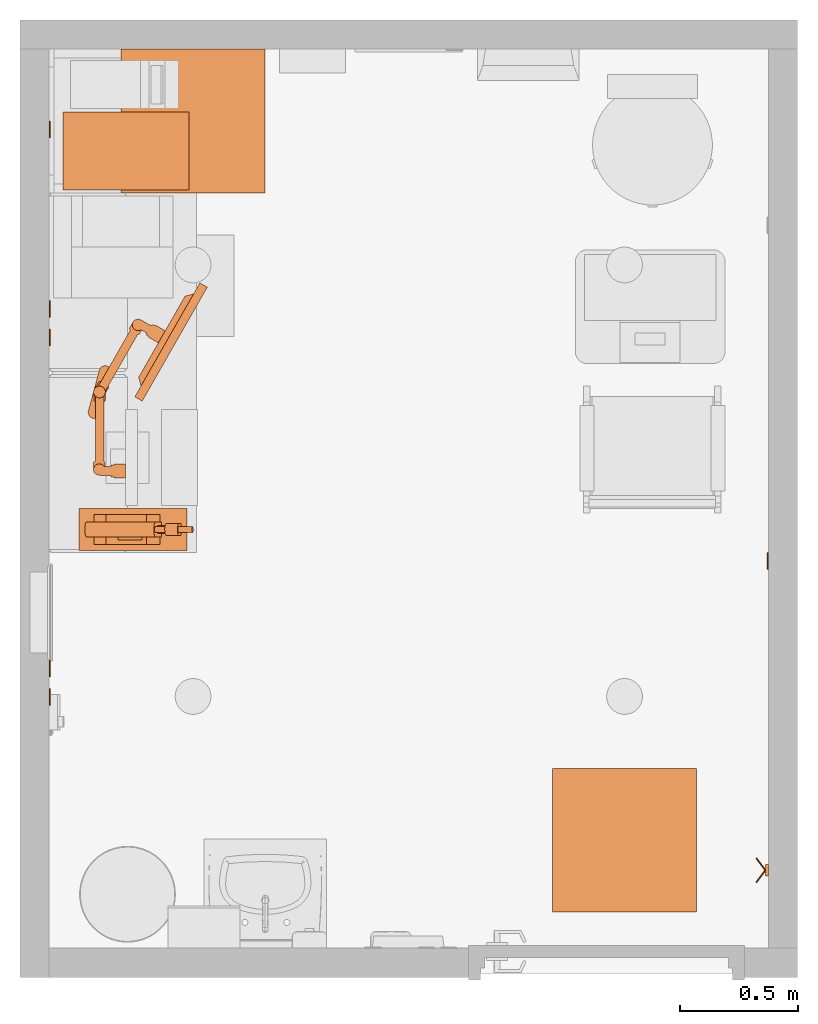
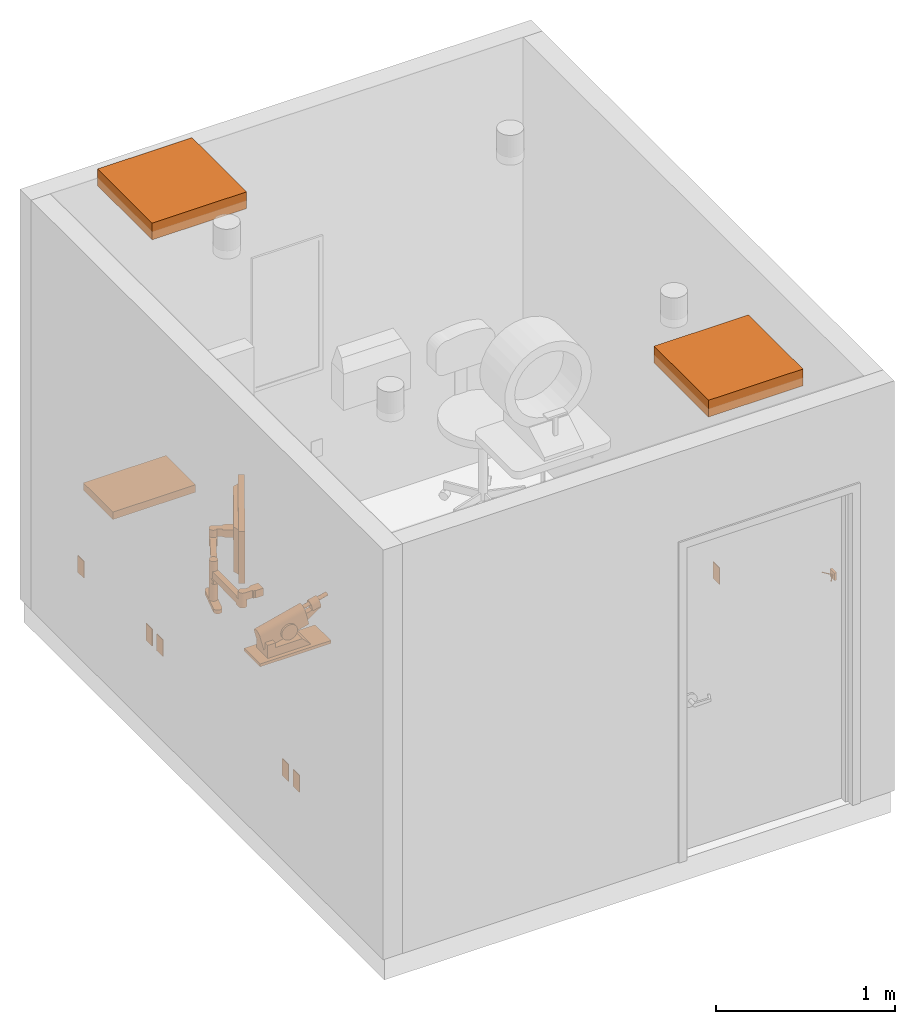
# One storey, part 6 of 11: 13 proxies.
"""IFC2X3 building model written with IfcOpenShell, lengths in feet."""

from ifc_helpers import new_model, entity, si_unit, converted_unit, derived_unit, direction, frame, frame_2d, origin, origin_2d_with_axis, place, context, subcontext, project, spatial, polyline, circle_curve, parameter, trimmed, segment, composite_curve, rectangle, circle, outline, extrude, source, transform, mapped, material, type_object, type_shapes, element, save


model = new_model("IFC2X3")

# Units and contexts
model_context = context("Model", 3, precision=0.0001, world=origin(), true_north=direction((6.12303176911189e-17, 1.0)))
body_context = subcontext(model_context, "Body", "Model", "MODEL_VIEW")
ifc_project = project(units=[converted_unit("LENGTHUNIT", "FOOT", entity("IfcRatioMeasure", 0.3048), si_unit("LENGTHUNIT", "METRE"), dimensions=[1, 0, 0, 0, 0, 0, 0]), converted_unit("AREAUNIT", "SQUARE FOOT", entity("IfcRatioMeasure", 0.09290304), si_unit("AREAUNIT", "SQUARE_METRE"), dimensions=[2, 0, 0, 0, 0, 0, 0]), converted_unit("VOLUMEUNIT", "CUBIC FOOT", entity("IfcRatioMeasure", 0.028316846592), si_unit("VOLUMEUNIT", "CUBIC_METRE"), dimensions=[3, 0, 0, 0, 0, 0, 0]), converted_unit("PLANEANGLEUNIT", "DEGREE", entity("IfcRatioMeasure", 0.0174532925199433), si_unit("PLANEANGLEUNIT", "RADIAN"), dimensions=[0, 0, 0, 0, 0, 0, 0]), si_unit("MASSUNIT", "GRAM", prefix="KILO"), derived_unit("MASSDENSITYUNIT", [(si_unit("MASSUNIT", "GRAM", prefix="KILO"), 1), (si_unit("LENGTHUNIT", "METRE"), -3)]), si_unit("TIMEUNIT", "SECOND"), si_unit("FREQUENCYUNIT", "HERTZ"), si_unit("THERMODYNAMICTEMPERATUREUNIT", "DEGREE_CELSIUS"), derived_unit("THERMALTRANSMITTANCEUNIT", [(si_unit("MASSUNIT", "GRAM", prefix="KILO"), 1), (si_unit("THERMODYNAMICTEMPERATUREUNIT", "KELVIN"), -1), (si_unit("TIMEUNIT", "SECOND"), -3)]), derived_unit("VOLUMETRICFLOWRATEUNIT", [(si_unit("LENGTHUNIT", "METRE"), 3), (si_unit("TIMEUNIT", "SECOND"), -1)]), si_unit("ELECTRICCURRENTUNIT", "AMPERE"), si_unit("ELECTRICVOLTAGEUNIT", "VOLT"), si_unit("POWERUNIT", "WATT"), si_unit("FORCEUNIT", "NEWTON"), si_unit("ILLUMINANCEUNIT", "LUX"), si_unit("LUMINOUSFLUXUNIT", "LUMEN"), si_unit("LUMINOUSINTENSITYUNIT", "CANDELA"), derived_unit("USERDEFINED", [(si_unit("MASSUNIT", "GRAM", prefix="KILO"), -1), (si_unit("LENGTHUNIT", "METRE"), -2), (si_unit("TIMEUNIT", "SECOND"), 3), (si_unit("LUMINOUSFLUXUNIT", "LUMEN"), 1)]), derived_unit("LINEARVELOCITYUNIT", [(si_unit("LENGTHUNIT", "METRE"), 1), (si_unit("TIMEUNIT", "SECOND"), -1)]), si_unit("PRESSUREUNIT", "PASCAL"), derived_unit("USERDEFINED", [(si_unit("LENGTHUNIT", "METRE"), -2), (si_unit("MASSUNIT", "GRAM", prefix="KILO"), 1), (si_unit("TIMEUNIT", "SECOND"), -2)])], contexts=[model_context])

# Site, building, storey, space
site_placement = place(None, origin())
site = spatial("IfcSite", under=ifc_project, at=site_placement, Name="Default", CompositionType="ELEMENT")
building_placement = place(site_placement, origin())
building = spatial("IfcBuilding", under=site, at=building_placement, Name="EYE CLINIC:  OPTHALMOLOGY AND OPTOMETRY SERVICES (Ch. 233)", CompositionType="ELEMENT")
storey_placement = place(building_placement, origin())
storey = spatial("IfcBuildingStorey", under=building, at=storey_placement, Name="DATUM", CompositionType="ELEMENT", Elevation=0.0)
space_placement = place(storey_placement, origin())
space = spatial("IfcSpace", under=storey, at=space_placement, Name="(OPVF2)", CompositionType="ELEMENT", InteriorOrExteriorSpace="INTERNAL")

# Proxies
building_element_proxy_type_1 = type_object("IfcBuildingElementProxyType", Name="24\" x 24\"", PredefinedType="NOTDEFINED")
shared_shape_1 = source(origin(), body_context, "Body", "SweptSolid", [
    extrude(rectangle(XDim=2.00000000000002, YDim=2.00000000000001, at=origin_2d_with_axis()), frame((0.0, 0.0, 8.0), z_axis=(0.0, 0.0, 1.0), x_axis=(0.0, 1.0, 0.0)), (0.0, 0.0, 1.0), 0.375),
])
type_shapes(building_element_proxy_type_1, [shared_shape_1])
proxy_1_placement = place(space_placement, frame((191.639769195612, 28.010750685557, 1.0)))
element("IfcBuildingElementProxy", 1, at=proxy_1_placement, inside=space, type_object=building_element_proxy_type_1, Name="Supply Diffuser:24\" x 24\"", ObjectType="24\" x 24\"", context=body_context, shape_type="MappedRepresentation", body=[
    mapped(shared_shape_1, transform((0.0, 0.0, 0.0), scale=1.0)),
])
building_element_proxy_type_2 = type_object("IfcBuildingElementProxyType", Name="24\" x 24\"", PredefinedType="NOTDEFINED")
shared_shape_2 = source(origin(), body_context, "Body", "SweptSolid", [
    extrude(rectangle(XDim=2.0, YDim=2.0, at=origin_2d_with_axis()), frame((0.0, 0.0, 8.0)), (0.0, 0.0, 1.0), 0.375),
])
type_shapes(building_element_proxy_type_2, [shared_shape_2])
proxy_2_placement = place(space_placement, frame((197.639769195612, 18.010750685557, 1.0)))
element("IfcBuildingElementProxy", 2, at=proxy_2_placement, inside=space, type_object=building_element_proxy_type_2, Name="Return Register:24\" x 24\"", ObjectType="24\" x 24\"", context=body_context, shape_type="MappedRepresentation", body=[
    mapped(shared_shape_2, transform((0.0, 0.0, 0.0), scale=1.0)),
])
building_element_proxy_type_3 = type_object("IfcBuildingElementProxyType", Name="A5145 - Hook, Garment, Double", PredefinedType="NOTDEFINED")
shared_shape_3 = source(origin(), body_context, "Body", "SweptSolid", [
    extrude(circle(Radius=0.0105952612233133, at=frame_2d((-1.64551454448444e-31, -4.16333634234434e-17), x_axis=(1.0, 0.0))), frame((-0.169086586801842, -0.168481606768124, 0.0833333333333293), z_axis=(0.799999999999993, 0.60000000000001, 0.0), x_axis=(0.60000000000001, -0.799999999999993, 0.0)), (0.0, 0.0, 1.0), 0.211358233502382),
    extrude(circle(Radius=0.0105952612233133, at=frame_2d((5.2041704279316e-19, 2.77555756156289e-17), x_axis=(1.0, 0.0))), frame((0.0, -0.0416666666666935, 0.083333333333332), z_axis=(0.799999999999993, -0.60000000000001, 0.0), x_axis=(-0.60000000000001, -0.799999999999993, 0.0)), (0.0, 0.0, 1.0), 0.211358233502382),
    extrude(rectangle(XDim=0.0416666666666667, YDim=0.166666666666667, at=origin_2d_with_axis()), frame((0.0, -0.0208333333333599, 0.0), z_axis=(0.0, 0.0, 1.0), x_axis=(0.0, 1.0, 0.0)), (0.0, 0.0, 1.0), 0.166666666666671),
])
type_shapes(building_element_proxy_type_3, [shared_shape_3])
proxy_3_placement = place(space_placement, frame((199.639769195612, 17.5940840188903, 4.0), z_axis=(0.0, 0.0, 1.0), x_axis=(0.0, -1.0, 0.0)))
element("IfcBuildingElementProxy", 3, at=proxy_3_placement, inside=space, type_object=building_element_proxy_type_3, Name="A5145 - Hook, Garment, Double:A5145 - Hook, Garment, Double", ObjectType="A5145 - Hook, Garment, Double", context=body_context, shape_type="MappedRepresentation", body=[
    mapped(shared_shape_3, transform((0.0, 0.0, 0.0), scale=1.0)),
])
building_element_proxy_type_4 = type_object("IfcBuildingElementProxyType", Name="A5225 - Dual  Flat Panel Monitor ARMS", PredefinedType="NOTDEFINED")
shared_shape_4 = source(origin(), body_context, "Body", "SweptSolid", [
    extrude(outline(composite_curve([segment(polyline([(-0.234804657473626, 0.69348870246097), (-0.00529516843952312, -0.178421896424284)]), True, "CONTINUOUS"), segment(polyline([(-0.00529516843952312, -0.178421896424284), (-0.00878224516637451, -0.179339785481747)]), True, "CONTINUOUS"), segment(trimmed(circle_curve(frame_2d((-0.00347901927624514, -0.199486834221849), x_axis=(1.0, 0.0)), 0.0208333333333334), [parameter(104.747209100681)], [parameter(194.747209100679)], True, "PARAMETER"), True, "CONTINUOUS"), segment(polyline([(-0.0236260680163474, -0.204790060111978), (0.000310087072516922, -0.295723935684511)]), True, "CONTINUOUS"), segment(trimmed(circle_curve(frame_2d((0.0775832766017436, -0.275383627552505), x_axis=(1.0, 0.0)), 0.0799054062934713), [parameter(194.747209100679)], [parameter(12.9847014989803)], True, "PARAMETER"), True, "CONTINUOUS"), segment(polyline([(0.155445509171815, -0.257429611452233), (0.129962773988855, -0.160620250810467)]), True, "CONTINUOUS"), segment(trimmed(circle_curve(frame_2d((0.113314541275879, -0.165002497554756), x_axis=(1.0, 0.0)), 0.0172153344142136), [parameter(14.7472091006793)], [parameter(104.032129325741)], True, "PARAMETER"), True, "CONTINUOUS"), segment(polyline([(0.10914040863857, -0.148300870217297), (-0.122350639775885, 0.731137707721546)]), True, "CONTINUOUS"), segment(trimmed(circle_curve(frame_2d((-0.196569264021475, 0.766052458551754), x_axis=(1.0, 0.0)), 0.0820209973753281), [parameter(242.214295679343)], [parameter(334.806246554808)], True, "PARAMETER"), False, "CONTINUOUS")], self_intersect=False)), frame((-0.766443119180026, -0.426874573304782, 0.588770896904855), z_axis=(0.0, 0.0, -1.0), x_axis=(0.0, 1.0, 0.0)), (0.0, 0.0, -1.0), 0.166666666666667),
    extrude(outline(composite_curve([segment(trimmed(circle_curve(frame_2d((-0.0257333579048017, 0.00677368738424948), x_axis=(1.0, 0.0)), 0.0799054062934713), [parameter(165.252790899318)], [parameter(343.490283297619)], True, "PARAMETER"), True, "CONTINUOUS"), segment(polyline([(0.0508776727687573, -0.0159336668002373), (0.05212887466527, -0.0111803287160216)]), True, "CONTINUOUS"), segment(trimmed(circle_curve(frame_2d((-0.0257333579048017, 0.00677368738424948), x_axis=(1.0, 0.0)), 0.0799054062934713), [parameter(347.01529850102)], [parameter(165.252790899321)], True, "PARAMETER"), True, "CONTINUOUS")], self_intersect=False)), frame((-1.03505305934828, -0.323557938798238, 0.755437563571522), z_axis=(0.0, 0.0, 1.0), x_axis=(0.0, 1.0, 0.0)), (0.0, 0.0, 1.0), 0.166666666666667),
    extrude(outline(composite_curve([segment(polyline([(-0.0732138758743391, -0.0665619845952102), (0.09292753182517, -0.0665619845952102)]), True, "CONTINUOUS"), segment(trimmed(circle_curve(frame_2d((0.0941564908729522, 0.0133339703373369), x_axis=(-0.967058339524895, -0.254554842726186)), 0.0799054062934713), [parameter(347.015298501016)], [parameter(74.3715370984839)], True, "PARAMETER"), False, "CONTINUOUS"), segment(polyline([(0.0142888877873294, 0.0108763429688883), (0.0142888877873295, 0.0157915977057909)]), True, "CONTINUOUS"), segment(trimmed(circle_curve(frame_2d((0.0941564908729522, 0.013333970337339), x_axis=(-0.967058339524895, -0.254554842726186)), 0.0799054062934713), [parameter(315.301217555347)], [parameter(343.490283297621)], True, "PARAMETER"), False, "CONTINUOUS"), segment(polyline([(0.0249226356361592, 0.0532281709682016), (-0.0732140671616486, 0.0532278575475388)]), True, "CONTINUOUS"), segment(trimmed(circle_curve(frame_2d((-0.0732138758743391, -0.00666706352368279), x_axis=(-0.967058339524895, -0.254554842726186)), 0.059894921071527), [parameter(255.252973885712)], [parameter(75.2527908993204)], True, "PARAMETER"), True, "CONTINUOUS")], self_intersect=False)), frame((-1.03075348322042, -0.254842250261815, 0.755437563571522), z_axis=(0.0, 0.0, 1.0), x_axis=(-0.254554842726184, -0.967058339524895, 0.0)), (0.0, 0.0, 1.0), 0.166666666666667),
    extrude(outline(composite_curve([segment(polyline([(-0.0382992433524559, -0.0723910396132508), (-0.0325648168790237, -0.0941765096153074)]), True, "CONTINUOUS"), segment(polyline([(-0.0325648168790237, -0.0941765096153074), (0.00369359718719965, -0.0846324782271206)]), True, "CONTINUOUS"), segment(polyline([(0.00369359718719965, -0.0846324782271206), (0.00753555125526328, -0.0992283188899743)]), True, "CONTINUOUS"), segment(polyline([(0.00753555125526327, -0.0992283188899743), (0.16736586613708, -0.0571573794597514)]), True, "CONTINUOUS"), segment(polyline([(0.16736586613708, -0.0571573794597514), (0.116889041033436, 0.131224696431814)]), True, "CONTINUOUS"), segment(polyline([(0.116889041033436, 0.131224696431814), (-0.042108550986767, 0.0893729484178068)]), True, "CONTINUOUS"), segment(polyline([(-0.042108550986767, 0.0893729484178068), (-0.0387316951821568, 0.0765440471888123)]), True, "CONTINUOUS"), segment(polyline([(-0.0387316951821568, 0.0765440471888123), (-0.0749901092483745, 0.0670000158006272)]), True, "CONTINUOUS"), segment(polyline([(-0.0749901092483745, 0.0670000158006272), (-0.0687896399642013, 0.0434440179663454)]), True, "CONTINUOUS"), segment(trimmed(circle_curve(frame_2d((-0.0528302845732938, -0.0142855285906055), x_axis=(1.0, 0.0)), 0.059894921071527), [parameter(284.040571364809)], [parameter(105.453480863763)], True, "PARAMETER"), False, "CONTINUOUS")], self_intersect=False)), frame((-1.00427844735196, -0.129512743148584, 0.755437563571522), z_axis=(0.0, 0.0, -1.0), x_axis=(0.0, 1.0, 0.0)), (0.0, 0.0, -1.0), 0.166666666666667),
    extrude(outline(composite_curve([segment(polyline([(0.0602572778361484, -0.055464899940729), (0.0827848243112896, -0.055464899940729)]), True, "CONTINUOUS"), segment(polyline([(0.0827848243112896, -0.055464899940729), (0.0827848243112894, -0.0179714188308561)]), True, "CONTINUOUS"), segment(polyline([(0.0827848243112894, -0.0179714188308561), (0.0978778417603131, -0.0179714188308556)]), True, "CONTINUOUS"), segment(polyline([(0.0978778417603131, -0.0179714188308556), (0.0978778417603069, 0.147303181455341)]), True, "CONTINUOUS"), segment(polyline([(0.0978778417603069, 0.147303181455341), (-0.0971477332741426, 0.146442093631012)]), True, "CONTINUOUS"), segment(polyline([(-0.0971477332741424, 0.146442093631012), (-0.0971477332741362, -0.0179714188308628)]), True, "CONTINUOUS"), segment(polyline([(-0.0971477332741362, -0.0179714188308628), (-0.0838818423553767, -0.0179714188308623)]), True, "CONTINUOUS"), segment(polyline([(-0.0838818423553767, -0.0179714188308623), (-0.0838818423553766, -0.0554648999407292)]), True, "CONTINUOUS"), segment(polyline([(-0.0838818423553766, -0.0554648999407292), (-0.0595234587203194, -0.0554648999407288)]), True, "CONTINUOUS"), segment(trimmed(circle_curve(frame_2d((0.000366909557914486, -0.0547264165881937), x_axis=(0.254551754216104, 0.967059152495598)), 0.059894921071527), [parameter(284.040571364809)], [parameter(105.453480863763)], True, "PARAMETER"), False, "CONTINUOUS")], self_intersect=False)), frame((1.0034971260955, -0.129512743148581, 0.755437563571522), z_axis=(0.0, 0.0, 1.0), x_axis=(0.967059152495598, 0.254551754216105, 0.0)), (0.0, 0.0, 1.0), 0.166666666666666),
    extrude(outline(composite_curve([segment(trimmed(circle_curve(frame_2d((0.0724992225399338, 0.0121895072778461), x_axis=(1.0, 0.0)), 0.059894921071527), [parameter(284.74720910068)], [parameter(104.747026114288)], True, "PARAMETER"), True, "CONTINUOUS"), segment(polyline([(0.0572528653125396, 0.0701114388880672), (-0.0376511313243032, 0.0451305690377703)]), True, "CONTINUOUS"), segment(trimmed(circle_curve(frame_2d((-0.0944490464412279, -0.0110732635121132), x_axis=(1.0, 0.0)), 0.0799054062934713), [parameter(16.509716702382)], [parameter(44.6987824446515)], True, "PARAMETER"), False, "CONTINUOUS"), segment(polyline([(-0.0178380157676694, 0.0116340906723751), (-0.016586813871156, 0.00688075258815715)]), True, "CONTINUOUS"), segment(trimmed(circle_curve(frame_2d((-0.0944490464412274, -0.0110732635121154), x_axis=(1.0, 0.0)), 0.0799054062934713), [parameter(285.628462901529)], [parameter(12.9847014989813)], True, "PARAMETER"), False, "CONTINUOUS"), segment(polyline([(-0.0729226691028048, -0.0880244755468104), (0.0877457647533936, -0.0457323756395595)]), True, "CONTINUOUS")], self_intersect=False)), frame((1.02997216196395, -0.254842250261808, 0.755437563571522), z_axis=(0.0, 0.0, 1.0), x_axis=(0.0, 1.0, 0.0)), (0.0, 0.0, 1.0), 0.166666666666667),
    extrude(outline(composite_curve([segment(trimmed(circle_curve(frame_2d((-0.0257333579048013, -0.00677368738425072), x_axis=(1.0, 0.0)), 0.0799054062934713), [parameter(194.74720910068)], [parameter(12.9847014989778)], True, "PARAMETER"), True, "CONTINUOUS"), segment(polyline([(0.0521288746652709, 0.0111803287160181), (0.050877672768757, 0.0159336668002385)]), True, "CONTINUOUS"), segment(trimmed(circle_curve(frame_2d((-0.0257333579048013, -0.00677368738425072), x_axis=(1.0, 0.0)), 0.0799054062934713), [parameter(16.509716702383)], [parameter(194.747209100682)], True, "PARAMETER"), True, "CONTINUOUS")], self_intersect=False)), frame((1.03427173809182, -0.323557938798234, 0.755437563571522), z_axis=(0.0, 0.0, 1.0), x_axis=(0.0, 1.0, 0.0)), (0.0, 0.0, 1.0), 0.166666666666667),
    extrude(circle(Radius=0.0820209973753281, at=frame_2d((-1.85274460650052e-31, -1.04300248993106e-16), x_axis=(1.0, 0.0))), frame((-0.000390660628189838, -0.624030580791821, 0.588770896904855), z_axis=(0.0, 0.0, 1.0), x_axis=(0.0, 1.0, 0.0)), (0.0, 0.0, 1.0), 0.385601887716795),
    extrude(outline(composite_curve([segment(trimmed(circle_curve(frame_2d((-0.79085507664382, -0.00490841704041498), x_axis=(0.254554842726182, -0.967058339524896)), 0.0820209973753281), [parameter(25.1937534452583)], [parameter(117.785704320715)], True, "PARAMETER"), False, "CONTINUOUS"), segment(polyline([(-0.738197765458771, -0.067794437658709), (0.17119781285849, -0.0677944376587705)]), True, "CONTINUOUS"), segment(trimmed(circle_curve(frame_2d((0.188411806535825, -0.0675795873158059), x_axis=(0.254554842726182, -0.967058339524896)), 0.0172153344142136), [parameter(255.967870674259)], [parameter(345.252790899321)], True, "PARAMETER"), True, "CONTINUOUS"), segment(polyline([(0.188411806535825, -0.0847949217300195), (0.288518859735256, -0.084794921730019)]), True, "CONTINUOUS"), segment(trimmed(circle_curve(frame_2d((0.286061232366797, -0.00492731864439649), x_axis=(0.254554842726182, -0.967058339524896)), 0.0799054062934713), [parameter(347.015298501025)], [parameter(165.252790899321)], True, "PARAMETER"), True, "CONTINUOUS"), segment(polyline([(0.286061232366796, 0.0749780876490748), (0.192029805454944, 0.074978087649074)]), True, "CONTINUOUS"), segment(trimmed(circle_curve(frame_2d((0.192029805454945, 0.0541447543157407), x_axis=(0.254554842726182, -0.967058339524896)), 0.0208333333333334), [parameter(165.252790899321)], [parameter(255.252790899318)], True, "PARAMETER"), True, "CONTINUOUS"), segment(polyline([(0.171196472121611, 0.0541447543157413), (0.171196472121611, 0.0505388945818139)]), True, "CONTINUOUS"), segment(polyline([(0.171196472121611, 0.0505388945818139), (-0.730414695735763, 0.050538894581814)]), True, "CONTINUOUS")], self_intersect=False)), frame((0.765661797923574, -0.426874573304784, 0.588770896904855), z_axis=(0.0, 0.0, -1.0), x_axis=(0.967058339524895, 0.254554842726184, 0.0)), (0.0, 0.0, -1.0), 0.166666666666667),
    extrude(outline(composite_curve([segment(polyline([(-0.027560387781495, -0.104702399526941), (0.104720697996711, -0.104702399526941)]), True, "CONTINUOUS"), segment(trimmed(circle_curve(frame_2d((0.104720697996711, -0.0838690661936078), x_axis=(0.254554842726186, 0.967058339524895)), 0.0208333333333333), [parameter(194.74720910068)], [parameter(284.74720910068)], True, "PARAMETER"), True, "CONTINUOUS"), segment(polyline([(0.125554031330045, -0.083869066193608), (0.125554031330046, 0.0378552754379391)]), True, "CONTINUOUS"), segment(trimmed(circle_curve(frame_2d((0.108338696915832, 0.0378552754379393), x_axis=(0.254554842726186, 0.967058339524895)), 0.0172153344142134), [parameter(284.747209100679)], [parameter(14.7472091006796)], True, "PARAMETER"), True, "CONTINUOUS"), segment(polyline([(0.108338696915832, 0.0550706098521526), (0.0144960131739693, 0.055070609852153)]), True, "CONTINUOUS"), segment(polyline([(0.0144960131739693, 0.055070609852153), (-0.067185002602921, 0.101273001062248)]), True, "CONTINUOUS"), segment(trimmed(circle_curve(frame_2d((-0.0756607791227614, 0.0862887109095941), x_axis=(0.254554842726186, 0.967058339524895)), 0.0172153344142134), [parameter(345.25279089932)], [parameter(75.2527908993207)], True, "PARAMETER"), True, "CONTINUOUS"), segment(polyline([(-0.0906450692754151, 0.0947644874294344), (-0.150574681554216, -0.0111848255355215)]), True, "CONTINUOUS"), segment(trimmed(circle_curve(frame_2d((-0.132441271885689, -0.0214418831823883), x_axis=(0.254554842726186, 0.967058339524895)), 0.0208333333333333), [parameter(75.2527908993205)], [parameter(165.252790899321)], True, "PARAMETER"), True, "CONTINUOUS"), segment(polyline([(-0.142698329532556, -0.0395752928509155), (-0.0275603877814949, -0.104702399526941)]), True, "CONTINUOUS")], self_intersect=False)), frame((-0.000390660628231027, -0.597782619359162, 0.505437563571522), z_axis=(0.0, 0.0, 1.0), x_axis=(0.967058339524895, 0.254554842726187, 0.0)), (0.0, 0.0, 1.0), 0.083333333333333),
    extrude(circle(Radius=0.0820209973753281, at=frame_2d((-1.85274460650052e-31, -1.04300248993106e-16), x_axis=(1.0, 0.0))), frame((-0.000390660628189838, -0.623443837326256, 0.0887708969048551), z_axis=(0.0, 0.0, 1.0), x_axis=(0.0, 1.0, 0.0)), (0.0, 0.0, 1.0), 0.416666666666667),
    extrude(outline(composite_curve([segment(polyline([(-0.295275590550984, -0.0820209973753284), (0.295275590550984, -0.0820209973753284)]), True, "CONTINUOUS"), segment(trimmed(circle_curve(frame_2d((0.295275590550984, 0.0), x_axis=(0.0, 1.0)), 0.0820209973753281), [parameter(180.0)], [parameter(0.0)], True, "PARAMETER"), True, "CONTINUOUS"), segment(polyline([(0.295275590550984, 0.0820209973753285), (-0.295275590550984, 0.0820209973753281)]), True, "CONTINUOUS"), segment(trimmed(circle_curve(frame_2d((-0.295275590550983, 0.0), x_axis=(0.0, 1.0)), 0.0820209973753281), [parameter(3.05333249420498e-13)], [parameter(180.0)], True, "PARAMETER"), True, "CONTINUOUS")], self_intersect=False)), frame((-0.000390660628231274, -0.623443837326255, 0.00543756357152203)), (0.0, 0.0, 1.0), 0.083333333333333),
])
type_shapes(building_element_proxy_type_4, [shared_shape_4])
proxy_4_placement = place(space_placement, frame((190.941673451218, 24.0816330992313, 2.66666666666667), z_axis=(0.0, 0.0, 1.0), x_axis=(-0.258819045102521, -0.965925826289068, 0.0)))
element("IfcBuildingElementProxy", 4, at=proxy_4_placement, inside=space, type_object=building_element_proxy_type_4, Name="A5225 - Dual Monitor Arms:A5225 - Dual  Flat Panel Monitor ARMS", ObjectType="A5225 - Dual  Flat Panel Monitor ARMS", context=body_context, shape_type="MappedRepresentation", body=[
    mapped(shared_shape_4, transform((0.0, 0.0, 0.0), scale=1.0)),
])
building_element_proxy_type_5 = type_object("IfcBuildingElementProxyType", Name="M1800 - Computer with Double Flat Panel Monitors", PredefinedType="NOTDEFINED")
shared_shape_5 = source(origin(), body_context, "Body", "SweptSolid", [
    extrude(outline(polyline([(0.427116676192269, -0.490290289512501), (0.553463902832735, -0.490290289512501), (-0.490290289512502, 0.553463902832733), (-0.490290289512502, 0.427116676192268), (0.427116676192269, -0.490290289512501)])), frame((0.0, -0.0446704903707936, 0.255437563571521), z_axis=(0.0, 0.0, 1.0), x_axis=(0.707106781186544, 0.707106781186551, 0.0)), (0.0, 0.0, 1.0), 0.999999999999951),
    extrude(rectangle(XDim=0.118992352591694, YDim=1.825, at=origin_2d_with_axis()), frame((-0.000550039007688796, 0.0594961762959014, 0.172104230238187), z_axis=(0.0, 0.0, 1.0), x_axis=(0.0, 1.0, 0.0)), (0.0, 0.0, 1.0), 1.16666666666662),
])
type_shapes(building_element_proxy_type_5, [shared_shape_5])
proxy_5_placement = place(space_placement, frame((191.282141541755, 24.9681128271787, 2.79166666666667), z_axis=(0.0, 0.0, 1.0), x_axis=(-0.496171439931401, -0.868224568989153, 0.0)))
element("IfcBuildingElementProxy", 5, at=proxy_5_placement, inside=space, type_object=building_element_proxy_type_5, Name="M1800 - Monitor, Computer:M1800 - Computer with Double Flat Panel Monitors", ObjectType="M1800 - Computer with Double Flat Panel Monitors", context=body_context, shape_type="MappedRepresentation", body=[
    mapped(shared_shape_5, transform((0.0, 0.0, 0.0), scale=1.0)),
])
ifc_material = material(Name="EquipSpace")
building_element_proxy_type_6 = type_object("IfcBuildingElementProxyType", Name="M5700 - Frame Set, Lens, Trial", PredefinedType="NOTDEFINED", material=ifc_material)
shared_shape_6 = source(origin(), body_context, "Body", "SweptSolid", [
    extrude(rectangle(XDim=1.58333333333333, YDim=0.958333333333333, at=origin_2d_with_axis()), frame((-0.00511830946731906, -0.0109342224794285, 0.0), z_axis=(0.0, 0.0, 1.0), x_axis=(-1.0, 0.0, 0.0)), (0.0, 0.0, 1.0), 0.125),
    extrude(rectangle(XDim=1.08333333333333, YDim=1.75, at=frame_2d((0.0, 0.175), x_axis=(1.0, 0.0))), frame((-0.175, 0.0, 0.0), z_axis=(0.0, 0.0, 1.0), x_axis=(0.0, -1.0, 0.0)), (0.0, 0.0, 1.0), 0.166666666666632),
])
type_shapes(building_element_proxy_type_6, [shared_shape_6])
proxy_6_placement = place(space_placement, frame((190.707477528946, 27.5940840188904, 3.0)))
element("IfcBuildingElementProxy", 6, at=proxy_6_placement, inside=space, type_object=building_element_proxy_type_6, material=ifc_material, Name="M5700 - Frame Set, Lens, Trial:M5700 - Frame Set, Lens, Trial", ObjectType="M5700 - Frame Set, Lens, Trial", context=body_context, shape_type="MappedRepresentation", body=[
    mapped(shared_shape_6, transform((0.0, 0.0, 0.0), scale=1.0)),
])
building_element_proxy_type_7 = type_object("IfcBuildingElementProxyType", Name="M5520 - Lensometer", PredefinedType="NOTDEFINED")
shared_shape_7 = source(origin(), body_context, "Body", "SweptSolid", [
    extrude(circle(Radius=0.166666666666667, at=frame_2d((0.0, -7.21644966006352e-16), x_axis=(1.0, 0.0))), frame((0.104166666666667, -0.0416666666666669, 0.437499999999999), z_axis=(1.0, 0.0, 0.0), x_axis=(0.0, -1.0, 0.0)), (0.0, 0.0, 1.0), 0.0439213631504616),
    extrude(circle(Radius=0.0416666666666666, at=frame_2d((1.73472347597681e-18, -1.077244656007e-16), x_axis=(1.0, 0.0))), frame((0.00188577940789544, 0.202289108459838, 0.758268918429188), z_axis=(0.0, 0.970295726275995, 0.241921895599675), x_axis=(1.0, 0.0, 0.0)), (0.0, 0.0, 1.0), 0.643678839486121),
    extrude(outline(composite_curve([segment(polyline([(-0.0833333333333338, -0.0572916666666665), (0.0833333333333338, -0.0572916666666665)]), True, "CONTINUOUS"), segment(polyline([(0.0833333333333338, -0.0572916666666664), (0.083333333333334, 0.0572916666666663)]), True, "CONTINUOUS"), segment(trimmed(circle_curve(frame_2d((0.0, 0.0572916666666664), x_axis=(-1.0, 0.0)), 0.0833333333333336), [parameter(180.0)], [parameter(1.52666624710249e-13)], True, "PARAMETER"), True, "CONTINUOUS"), segment(polyline([(-0.0833333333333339, 0.0572916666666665), (-0.0833333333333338, -0.0572916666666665)]), True, "CONTINUOUS")], self_intersect=False)), frame((0.0, 0.473607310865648, 0.749137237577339), z_axis=(0.0, 0.970295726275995, 0.241921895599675), x_axis=(-1.0, 0.0, 0.0)), (0.0, 0.0, 1.0), 0.182011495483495),
    extrude(outline(polyline([(-0.0508526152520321, -0.166666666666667), (0.11089117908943, -0.166666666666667), (-0.00918594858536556, 0.166666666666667), (-0.0508526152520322, 0.166666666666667), (-0.0508526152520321, -0.166666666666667)])), frame((-0.0576992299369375, 0.51465880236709, 0.647917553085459), z_axis=(1.0, 0.0, 0.0), x_axis=(0.0, 0.241921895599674, -0.970295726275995)), (0.0, 0.0, 1.0), 0.112888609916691),
    extrude(outline(composite_curve([segment(polyline([(-0.104166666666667, -0.166666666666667), (0.104166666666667, -0.166666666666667)]), True, "CONTINUOUS"), segment(polyline([(0.104166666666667, -0.166666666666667), (0.104166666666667, 0.166666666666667)]), True, "CONTINUOUS"), segment(trimmed(circle_curve(frame_2d((0.0, 0.166666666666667), x_axis=(-1.0, 0.0)), 0.104166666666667), [parameter(180.0)], [parameter(2.03555499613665e-13)], True, "PARAMETER"), True, "CONTINUOUS"), segment(polyline([(-0.104166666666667, 0.166666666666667), (-0.104166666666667, -0.166666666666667)]), True, "CONTINUOUS")], self_intersect=False)), frame((0.0, -0.607176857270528, 0.366944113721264), z_axis=(0.0, 0.970295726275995, 0.241921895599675), x_axis=(-1.0, 0.0, 0.0)), (0.0, 0.0, 1.0), 0.989819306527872),
    extrude(outline(polyline([(-0.131944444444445, -0.329861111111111), (0.159722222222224, -0.329861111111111), (0.159722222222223, 0.586805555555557), (-0.0277777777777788, 0.399305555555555), (-0.0277777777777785, -0.163194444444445), (-0.131944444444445, -0.163194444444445), (-0.131944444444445, -0.329861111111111)])), frame((-0.208333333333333, -0.211805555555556, 0.22528558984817), z_axis=(1.0, 0.0, 0.0), x_axis=(0.0, 0.0, -1.0)), (0.0, 0.0, 1.0), 0.416666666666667),
    extrude(rectangle(XDim=1.5, YDim=0.583333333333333, at=origin_2d_with_axis()), frame((0.0, 0.0, 0.0), z_axis=(0.0, 0.0, 1.0), x_axis=(0.0, 1.0, 0.0)), (0.0, 0.0, 1.0), 0.0655633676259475),
])
type_shapes(building_element_proxy_type_7, [shared_shape_7])
proxy_7_placement = place(space_placement, frame((190.806435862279, 22.3323361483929, 2.6658857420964), z_axis=(0.0, 0.0, 1.0), x_axis=(0.0, -1.0, 0.0)))
element("IfcBuildingElementProxy", 7, at=proxy_7_placement, inside=space, type_object=building_element_proxy_type_7, Name="M5520 - Lensometer:M5520 - Lensometer", ObjectType="M5520 - Lensometer", context=body_context, shape_type="MappedRepresentation", body=[
    mapped(shared_shape_7, transform((0.0, 0.0, 0.0), scale=1.0)),
])
building_element_proxy_type_8 = type_object("IfcBuildingElementProxyType", Name="Duplex", PredefinedType="NOTDEFINED")
shared_shape_8 = source(origin(), body_context, "Body", "SweptSolid", [
    extrude(rectangle(XDim=0.0156249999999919, YDim=0.229166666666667, at=origin_2d_with_axis()), frame((0.0, 0.210937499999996, 0.0), z_axis=(0.0, 0.0, 1.0), x_axis=(0.0, 1.0, 0.0)), (0.0, 0.0, 1.0), 0.37500000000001),
])
type_shapes(building_element_proxy_type_8, [shared_shape_8])
for number, where, z_axis, x_axis, name in (
    (8, (189.436644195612, 25.3961673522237, 1.3125), (0.0, 0.0, 1.0), (0.0, -1.0, 0.0), "Outlet, Duplex, Wall:Duplex"),
    (9, (199.842894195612, 21.8961673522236, 1.3125), (0.0, 0.0, 1.0), (0.0, 1.0, 0.0), "Outlet, Duplex, Wall:Duplex"),
    (10, (189.436644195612, 27.8961673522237, 1.3125), (0.0, 0.0, 1.0), (0.0, -1.0, 0.0), "Outlet, Duplex, Wall:Duplex"),
    (11, (189.436644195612, 20.3961673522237, 1.3125), (0.0, 0.0, 1.0), (0.0, -1.0, 0.0), "Outlet, Duplex, Wall:Duplex"),
):
    element("IfcBuildingElementProxy", number, at=place(space_placement, frame(where, z_axis=z_axis, x_axis=x_axis)), inside=space, type_object=building_element_proxy_type_8, Name=name, ObjectType="Duplex", context=body_context, shape_type="MappedRepresentation", body=[
        mapped(shared_shape_8, transform((0.0, 0.0, 0.0), scale=1.0)),
    ])
building_element_proxy_type_9 = type_object("IfcBuildingElementProxyType", Name="Telephone/Data", PredefinedType="NOTDEFINED")
shared_shape_9 = source(origin(), body_context, "Body", "SweptSolid", [
    extrude(rectangle(XDim=0.0156249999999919, YDim=0.229166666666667, at=origin_2d_with_axis()), frame((0.0, 0.210937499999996, 0.0), z_axis=(0.0, 0.0, 1.0), x_axis=(0.0, 1.0, 0.0)), (0.0, 0.0, 1.0), 0.375),
])
type_shapes(building_element_proxy_type_9, [shared_shape_9])
for number, where, z_axis, x_axis, name in (
    (12, (189.436644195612, 20.0003340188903, 1.3125), (0.0, 0.0, 1.0), (0.0, -1.0, 0.0), "Outlet, Communications:Telephone/Data"),
    (13, (189.436644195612, 25.0003340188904, 1.3125), (0.0, 0.0, 1.0), (0.0, -1.0, 0.0), "Outlet, Communications:Telephone/Data"),
):
    element("IfcBuildingElementProxy", number, at=place(space_placement, frame(where, z_axis=z_axis, x_axis=x_axis)), inside=space, type_object=building_element_proxy_type_9, Name=name, ObjectType="Telephone/Data", context=body_context, shape_type="MappedRepresentation", body=[
        mapped(shared_shape_9, transform((0.0, 0.0, 0.0), scale=1.0)),
    ])

save(model, "model.ifc")
